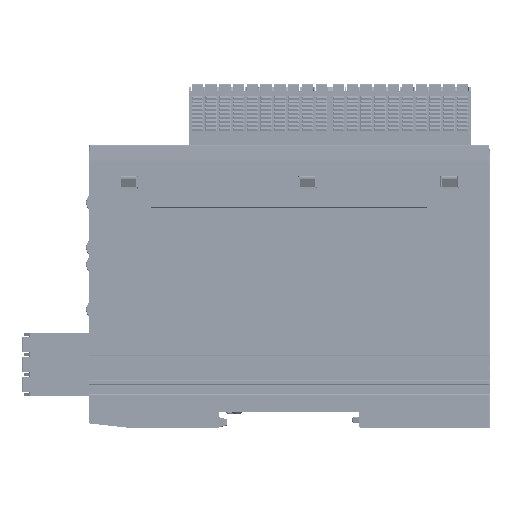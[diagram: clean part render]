
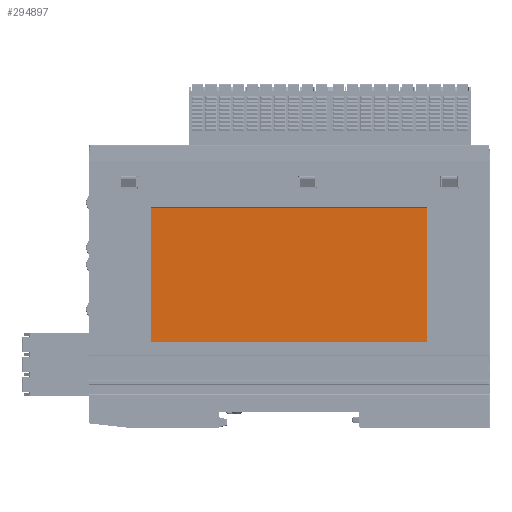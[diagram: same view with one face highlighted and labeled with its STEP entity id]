
A CAD part, left-side view. The second image highlights one B-rep face of the part: STEP entity #294897.
In plain terms, the highlighted planar face has unit normal (-1, 0, 0).
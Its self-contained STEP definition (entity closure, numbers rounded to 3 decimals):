
#101045=DIRECTION('',(0.,1.,0.));
#101046=VECTOR('',#101045,70.);
#101047=CARTESIAN_POINT('',(-12.3,-35.,-46.));
#101048=LINE('',#101047,#101046);
#101049=DIRECTION('',(0.,0.,1.));
#101050=VECTOR('',#101049,34.);
#101051=CARTESIAN_POINT('',(-12.3,35.,-46.));
#101052=LINE('',#101051,#101050);
#101053=DIRECTION('',(0.,-1.,0.));
#101054=VECTOR('',#101053,70.);
#101055=CARTESIAN_POINT('',(-12.3,35.,-12.));
#101056=LINE('',#101055,#101054);
#101057=DIRECTION('',(0.,0.,-1.));
#101058=VECTOR('',#101057,34.);
#101059=CARTESIAN_POINT('',(-12.3,-35.,-12.));
#101060=LINE('',#101059,#101058);
#122291=CARTESIAN_POINT('',(-12.3,35.,-46.));
#122292=VERTEX_POINT('',#122291);
#122293=CARTESIAN_POINT('',(-12.3,-35.,-46.));
#122294=VERTEX_POINT('',#122293);
#122295=CARTESIAN_POINT('',(-12.3,35.,-12.));
#122296=VERTEX_POINT('',#122295);
#122297=CARTESIAN_POINT('',(-12.3,-35.,-12.));
#122298=VERTEX_POINT('',#122297);
#294886=CARTESIAN_POINT('',(-12.3,0.,0.));
#294887=DIRECTION('',(-1.,0.,0.));
#294888=DIRECTION('',(0.,0.,1.));
#294889=AXIS2_PLACEMENT_3D('',#294886,#294887,#294888);
#294890=PLANE('',#294889);
#294891=ORIENTED_EDGE('',*,*,#294825,.T.);
#294892=ORIENTED_EDGE('',*,*,#294841,.T.);
#294893=ORIENTED_EDGE('',*,*,#294867,.T.);
#294894=ORIENTED_EDGE('',*,*,#294880,.T.);
#294895=EDGE_LOOP('',(#294891,#294892,#294893,#294894));
#294896=FACE_OUTER_BOUND('',#294895,.F.);
#294897=ADVANCED_FACE('',(#294896),#294890,.T.);
#294825=EDGE_CURVE('',#122294,#122292,#101048,.T.);
#294841=EDGE_CURVE('',#122292,#122296,#101052,.T.);
#294867=EDGE_CURVE('',#122296,#122298,#101056,.T.);
#294880=EDGE_CURVE('',#122298,#122294,#101060,.T.);
